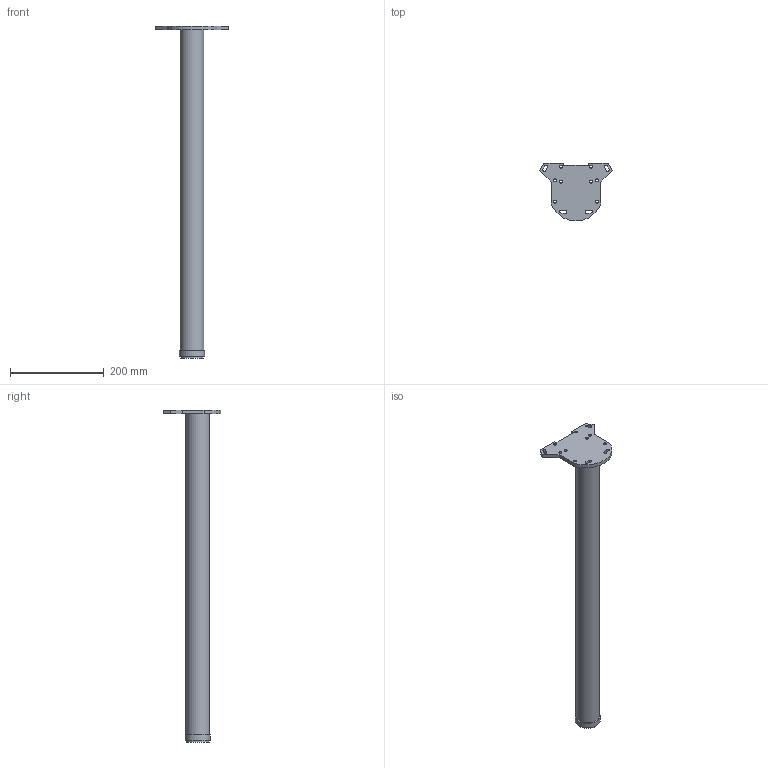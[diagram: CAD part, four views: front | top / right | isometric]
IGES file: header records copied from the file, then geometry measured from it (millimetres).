
Start section: Data from Parasolid IGES Translator 20.0.26, Copyright(c) 2006 Siemens P LM Software. All Rights Reserved.
Global section: file name: 70131.igs; native system: By Siemens PLM Incorporated; preprocessor: XPlus GENERIC/IGES 20.0.26; author: Noname; organization: Noname; date: 20210812.133026; units: millimetre
Bounding box: 155.69 x 124 x 710 mm (x, y, z)
Surface area: 142329.8 mm2 (no closed solid volume)
Topology: 0 solids, 0 shells, 48 faces, 258 edges, 240 vertices
Faces by surface type: revolution 24, extrusion 24
